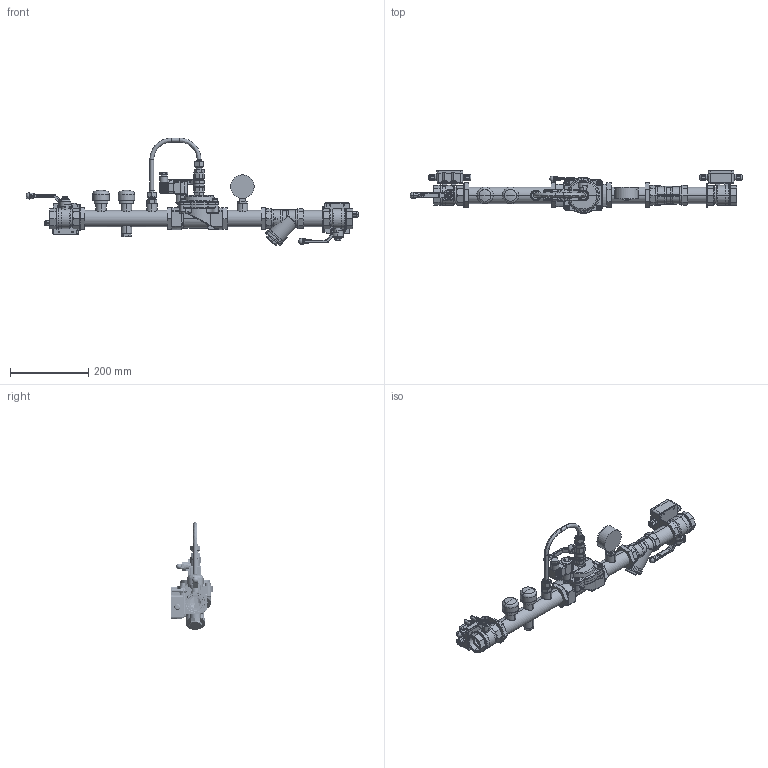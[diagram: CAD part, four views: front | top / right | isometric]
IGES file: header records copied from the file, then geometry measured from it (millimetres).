
Start section: File generated by T-FLEX CAD Version (null)
Global section: file name:                  DN 32 3D.igs; native system: T-FLEX CAD; date: 211014.091902; units: millimetre
Bounding box: 849.86 x 109 x 275.58 mm (x, y, z)
Volume: 1296210.1 mm3; surface area: 576420.1 mm2
Topology: 110 solids, 126 shells, 4404 faces, 10998 edges, 6733 vertices
Faces by surface type: plane 1701, cylinder 1329, bspline 519, cone 516, revolution 253, sphere 86
